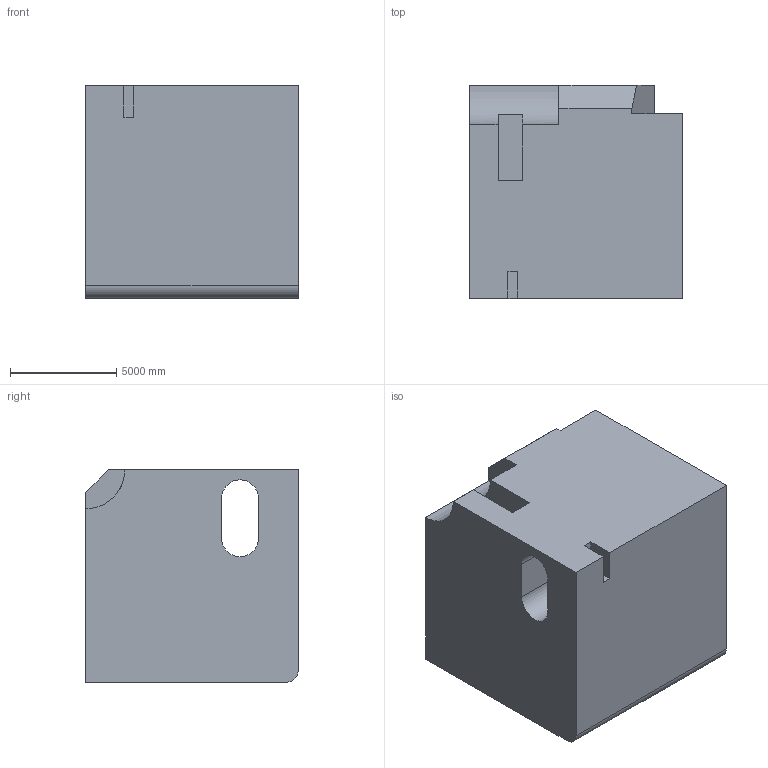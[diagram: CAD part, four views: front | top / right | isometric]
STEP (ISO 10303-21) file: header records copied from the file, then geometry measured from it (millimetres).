
FILE_DESCRIPTION (( 'STEP AP203' ), '1' );
FILE_NAME ('79.STEP', '2022-09-01T12:00:03', ( 'user' ), ( '' ), 'SwSTEP 2.0', 'SolidWorks 2021', '' );
FILE_SCHEMA (( 'CONFIG_CONTROL_DESIGN' ));
Length unit declared in the file: centimetre
Products named in the file (1): 79
Bounding box: 10000 x 10000 x 10000 mm (x, y, z)
Volume: 890861312988.3 mm3; surface area: 706505247.2 mm2
Topology: 1 solids, 1 shells, 32 faces, 84 edges, 56 vertices
Faces by surface type: plane 23, cylinder 9
Entity records: 1069 total; most frequent: CARTESIAN_POINT 173, DIRECTION 170, ORIENTED_EDGE 168, EDGE_CURVE 84, VECTOR 64, LINE 64, VERTEX_POINT 56, AXIS2_PLACEMENT_3D 53
